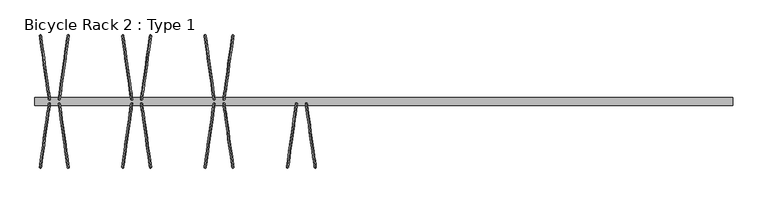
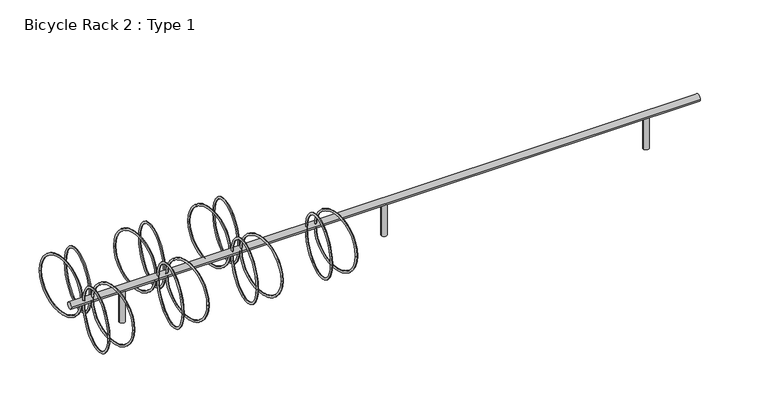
"""IFC4 building model written with IfcOpenShell, lengths in millimetres: proxy geometry, Bicycle Rack 2 : Type 1."""

from ifc_helpers import new_model, si_unit, point, frame, frame_2d, origin, origin_with_axes, origin_2d, place, context, project, spatial, circle_curve, ellipse_curve, trimmed, segment, composite_curve, outline, extrude, source, transform, mapped, element, save
from ifc_brep_helpers import revolved_surface, advanced_brep


def bicycle_rack_2_type_1_8d1b79aa(model_context):
    return source(origin(), model_context, "Body", "SolidModel", [
        extrude(outline(composite_curve([segment(trimmed(circle_curve(frame_2d((0.0, 304.8)), 30.1625), [point((30.1625, 304.8))], [point((-30.1625, 304.8))], False, "CARTESIAN"), True, "CONTINUOUS"), segment(trimmed(circle_curve(frame_2d((0.0, 304.8)), 30.1625), [point((-30.1625, 304.8))], [point((30.1625, 304.8))], False, "CARTESIAN"), True, "CONTINUOUS")], self_intersect=False)), frame((-2743.2, 0.0, 0.0), z_axis=(1.0, 0.0, 0.0), x_axis=(0.0, 1.0, 0.0)), (0.0, 0.0, 1.0), 5486.4),
        extrude(outline(composite_curve([segment(trimmed(circle_curve(frame_2d((2286.0, 0.0)), 25.4), [point((2260.6, 0.0))], [point((2311.4, 0.0))], False, "CARTESIAN"), True, "CONTINUOUS"), segment(trimmed(circle_curve(frame_2d((2286.0, 0.0)), 25.4), [point((2311.4, 0.0))], [point((2260.6, 0.0))], False, "CARTESIAN"), True, "CONTINUOUS")], self_intersect=False)), origin_with_axes(), (0.0, 0.0, 1.0), 304.8),
        extrude(outline(composite_curve([segment(trimmed(circle_curve(origin_2d(), 25.4), [point((-25.4, 0.0))], [point((25.4, 0.0))], False, "CARTESIAN"), True, "CONTINUOUS"), segment(trimmed(circle_curve(origin_2d(), 25.4), [point((25.4, 0.0))], [point((-25.4, 0.0))], False, "CARTESIAN"), True, "CONTINUOUS")], self_intersect=False)), origin_with_axes(), (0.0, 0.0, 1.0), 304.8),
        extrude(outline(composite_curve([segment(trimmed(circle_curve(frame_2d((2286.0, 0.0)), 25.4), [point((2260.6, 0.0))], [point((2311.4, 0.0))], False, "CARTESIAN"), True, "CONTINUOUS"), segment(trimmed(circle_curve(frame_2d((2286.0, 0.0)), 25.4), [point((2311.4, 0.0))], [point((2260.6, 0.0))], False, "CARTESIAN"), True, "CONTINUOUS")], self_intersect=False)), origin_with_axes(), (0.0, 0.0, 1.0), 304.8),
        extrude(outline(composite_curve([segment(trimmed(circle_curve(origin_2d(), 25.4), [point((-25.4, 0.0))], [point((25.4, 0.0))], False, "CARTESIAN"), True, "CONTINUOUS"), segment(trimmed(circle_curve(origin_2d(), 25.4), [point((25.4, 0.0))], [point((-25.4, 0.0))], False, "CARTESIAN"), True, "CONTINUOUS")], self_intersect=False)), origin_with_axes(), (0.0, 0.0, 1.0), 304.8),
        extrude(outline(composite_curve([segment(trimmed(circle_curve(frame_2d((-2286.0, 0.0)), 25.4), [point((-2311.4, 0.0))], [point((-2260.6, 0.0))], False, "CARTESIAN"), True, "CONTINUOUS"), segment(trimmed(circle_curve(frame_2d((-2286.0, 0.0)), 25.4), [point((-2260.6, 0.0))], [point((-2311.4, 0.0))], False, "CARTESIAN"), True, "CONTINUOUS")], self_intersect=False)), origin_with_axes(), (0.0, 0.0, 1.0), 304.8),
        advanced_brep(
        [(-2630.2111695, -21.9255981, 304.7993564), (-2698.7017319, -509.2612714, 304.7993564), (-2700.9111048, -524.981777, 304.7993564), (-2628.0017966, -6.2050925, 304.7993564)],
        [
            (0, 1, circle_curve(frame((-2664.4564507, -265.5934347, 304.7993564), z_axis=(0.990268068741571, -0.13917310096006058, 0.0), x_axis=(-0.13917310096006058, -0.990268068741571, 0.0)), 246.0625)),
            (1, 2, circle_curve(frame((-2699.8064183, -517.1215242, 304.7993564), z_axis=(0.0, 0.0, 1.0), x_axis=(0.13917310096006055, 0.990268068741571, 0.0)), 7.9375)),
            (2, 3, circle_curve(frame((-2664.4564507, -265.5934347, 304.7993564), z_axis=(-0.990268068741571, 0.13917310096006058, 0.0), x_axis=(-0.13917310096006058, -0.990268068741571, 0.0)), 261.9375)),
            (3, 0, circle_curve(frame((-2629.1064831, -14.0653453, 304.7993564), z_axis=(0.0, 0.0, 1.0), x_axis=(-0.1391731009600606, -0.990268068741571, 0.0)), 7.9375)),
            (2, 1, circle_curve(frame((-2699.8064183, -517.1215242, 304.7993564), z_axis=(0.0, 0.0, 1.0), x_axis=(0.13917310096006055, 0.990268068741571, 0.0)), 7.9375)),
            (0, 3, circle_curve(frame((-2629.1064831, -14.0653453, 304.7993564), z_axis=(0.0, 0.0, 1.0), x_axis=(-0.1391731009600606, -0.990268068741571, 0.0)), 7.9375)),
            (1, 0, circle_curve(frame((-2664.4564507, -265.5934347, 304.7993564), z_axis=(0.990268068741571, -0.13917310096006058, 0.0), x_axis=(0.13917310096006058, 0.990268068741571, 0.0)), 246.0625)),
            (3, 2, circle_curve(frame((-2664.4564507, -265.5934347, 304.7993564), z_axis=(-0.990268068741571, 0.13917310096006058, 0.0), x_axis=(0.13917310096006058, 0.990268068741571, 0.0)), 261.9375)),
        ],
        [
            revolved_surface(trimmed(ellipse_curve(frame((-2699.8064183, -517.1215242, 304.7993564), z_axis=(0.0, 0.0, -1.0), x_axis=(0.13917310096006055, 0.990268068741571, 0.0)), 7.9375, 7.9375), [point((-2700.9111048, -524.981777, 304.7993564))], [point((-2698.7017319, -509.2612714, 304.7993564))], True, "CARTESIAN"), (-2475.8103836, -292.1059105, 304.7993564), (-0.990268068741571, 0.13917310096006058, 0.0)),
            revolved_surface(trimmed(ellipse_curve(frame((-2699.8064183, -517.1215242, 304.7993564), z_axis=(0.0, 0.0, -1.0), x_axis=(0.13917310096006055, 0.990268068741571, 0.0)), 7.9375, 7.9375), [point((-2698.7017319, -509.2612714, 304.7993564))], [point((-2700.9111048, -524.981777, 304.7993564))], True, "CARTESIAN"), (-2475.8103836, -292.1059105, 304.7993564), (-0.990268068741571, 0.13917310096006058, 0.0)),
            revolved_surface(trimmed(ellipse_curve(frame((-2629.1064831, -14.0653453, 304.7993564), z_axis=(0.0, 0.0, 1.0), x_axis=(-0.13917310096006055, -0.990268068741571, 0.0)), 7.9375, 7.9375), [point((-2628.0017966, -6.2050925, 304.7993564))], [point((-2630.2111695, -21.9255981, 304.7993564))], True, "CARTESIAN"), (-2475.8103836, -292.1059105, 304.7993564), (-0.990268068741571, 0.13917310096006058, 0.0)),
            revolved_surface(trimmed(ellipse_curve(frame((-2629.1064831, -14.0653453, 304.7993564), z_axis=(0.0, 0.0, 1.0), x_axis=(-0.13917310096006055, -0.990268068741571, 0.0)), 7.9375, 7.9375), [point((-2630.2111695, -21.9255981, 304.7993564))], [point((-2628.0017966, -6.2050925, 304.7993564))], True, "CARTESIAN"), (-2475.8103836, -292.1059105, 304.7993564), (-0.990268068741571, 0.13917310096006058, 0.0)),
        ],
        [
            (0, [[1, 2, 3, 4]]),
            (1, [[-3, 5, -1, 6]]),
            (2, [[7, -4, 8, -2]]),
            (3, [[-8, -6, -7, -5]]),
        ],
    ),
        advanced_brep(
        [(-2551.3888305, -21.9255981, 304.7993564), (-2482.8982681, -509.2612714, 304.7993564), (-2480.6888952, -524.981777, 304.7993564), (-2553.5982034, -6.2050925, 304.7993564)],
        [
            (0, 1, circle_curve(frame((-2517.1435493, -265.5934347, 304.7993564), z_axis=(0.9902680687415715, 0.1391731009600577, 0.0), x_axis=(0.1391731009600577, -0.9902680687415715, 0.0)), 246.0625)),
            (1, 2, circle_curve(frame((-2481.7935817, -517.1215242, 304.7993564), z_axis=(0.0, 0.0, 1.0), x_axis=(-0.13917310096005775, 0.9902680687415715, 0.0)), 7.9375)),
            (2, 3, circle_curve(frame((-2517.1435493, -265.5934347, 304.7993564), z_axis=(-0.9902680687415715, -0.1391731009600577, 0.0), x_axis=(0.1391731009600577, -0.9902680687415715, 0.0)), 261.9375)),
            (3, 0, circle_curve(frame((-2552.4935169, -14.0653453, 304.7993564), z_axis=(0.0, 0.0, 1.0), x_axis=(0.13917310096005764, -0.9902680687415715, 0.0)), 7.9375)),
            (2, 1, circle_curve(frame((-2481.7935817, -517.1215242, 304.7993564), z_axis=(0.0, 0.0, 1.0), x_axis=(-0.13917310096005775, 0.9902680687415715, 0.0)), 7.9375)),
            (0, 3, circle_curve(frame((-2552.4935169, -14.0653453, 304.7993564), z_axis=(0.0, 0.0, 1.0), x_axis=(0.13917310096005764, -0.9902680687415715, 0.0)), 7.9375)),
            (1, 0, circle_curve(frame((-2517.1435493, -265.5934347, 304.7993564), z_axis=(0.9902680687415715, 0.1391731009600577, 0.0), x_axis=(-0.1391731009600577, 0.9902680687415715, 0.0)), 246.0625)),
            (3, 2, circle_curve(frame((-2517.1435493, -265.5934347, 304.7993564), z_axis=(-0.9902680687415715, -0.1391731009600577, 0.0), x_axis=(-0.1391731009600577, 0.9902680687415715, 0.0)), 261.9375)),
        ],
        [
            revolved_surface(trimmed(ellipse_curve(frame((-2481.7935817, -517.1215242, 304.7993564), z_axis=(0.0, 0.0, -1.0), x_axis=(-0.13917310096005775, 0.9902680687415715, 0.0)), 7.9375, 7.9375), [point((-2480.6888952, -524.981777, 304.7993564))], [point((-2482.8982681, -509.2612714, 304.7993564))], True, "CARTESIAN"), (-2705.7896164, -292.1059105, 304.7993564), (-0.9902680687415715, -0.1391731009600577, 0.0)),
            revolved_surface(trimmed(ellipse_curve(frame((-2481.7935817, -517.1215242, 304.7993564), z_axis=(0.0, 0.0, -1.0), x_axis=(-0.13917310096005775, 0.9902680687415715, 0.0)), 7.9375, 7.9375), [point((-2482.8982681, -509.2612714, 304.7993564))], [point((-2480.6888952, -524.981777, 304.7993564))], True, "CARTESIAN"), (-2705.7896164, -292.1059105, 304.7993564), (-0.9902680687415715, -0.1391731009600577, 0.0)),
            revolved_surface(trimmed(ellipse_curve(frame((-2552.4935169, -14.0653453, 304.7993564), z_axis=(0.0, 0.0, 1.0), x_axis=(0.1391731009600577, -0.9902680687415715, 0.0)), 7.9375, 7.9375), [point((-2553.5982034, -6.2050925, 304.7993564))], [point((-2551.3888305, -21.9255981, 304.7993564))], True, "CARTESIAN"), (-2705.7896164, -292.1059105, 304.7993564), (-0.9902680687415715, -0.1391731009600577, 0.0)),
            revolved_surface(trimmed(ellipse_curve(frame((-2552.4935169, -14.0653453, 304.7993564), z_axis=(0.0, 0.0, 1.0), x_axis=(0.1391731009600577, -0.9902680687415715, 0.0)), 7.9375, 7.9375), [point((-2551.3888305, -21.9255981, 304.7993564))], [point((-2553.5982034, -6.2050925, 304.7993564))], True, "CARTESIAN"), (-2705.7896164, -292.1059105, 304.7993564), (-0.9902680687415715, -0.1391731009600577, 0.0)),
        ],
        [
            (0, [[1, 2, 3, 4]]),
            (1, [[-3, 5, -1, 6]]),
            (2, [[7, -4, 8, -2]]),
            (3, [[-8, -6, -7, -5]]),
        ],
    ),
        advanced_brep(
        [(-2551.3888305, 21.9255981, 304.7993564), (-2482.8982681, 509.2612714, 304.7993564), (-2480.6888952, 524.981777, 304.7993564), (-2553.5982034, 6.2050925, 304.7993564)],
        [
            (0, 1, circle_curve(frame((-2517.1435493, 265.5934347, 304.7993564), z_axis=(-0.9902680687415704, 0.13917310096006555, 0.0), x_axis=(0.13917310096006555, 0.9902680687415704, 0.0)), 246.0625)),
            (1, 2, circle_curve(frame((-2481.7935817, 517.1215242, 304.7993564), z_axis=(0.0, 0.0, 1.0000000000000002), x_axis=(-0.13917310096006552, -0.9902680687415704, 0.0)), 7.9375)),
            (2, 3, circle_curve(frame((-2517.1435493, 265.5934347, 304.7993564), z_axis=(0.9902680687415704, -0.13917310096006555, 0.0), x_axis=(0.13917310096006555, 0.9902680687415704, 0.0)), 261.9375)),
            (3, 0, circle_curve(frame((-2552.4935169, 14.0653453, 304.7993564), z_axis=(0.0, 0.0, 1.0000000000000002), x_axis=(0.13917310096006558, 0.9902680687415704, 0.0)), 7.9375)),
            (2, 1, circle_curve(frame((-2481.7935817, 517.1215242, 304.7993564), z_axis=(0.0, 0.0, 1.0000000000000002), x_axis=(-0.13917310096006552, -0.9902680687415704, 0.0)), 7.9375)),
            (0, 3, circle_curve(frame((-2552.4935169, 14.0653453, 304.7993564), z_axis=(0.0, 0.0, 1.0000000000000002), x_axis=(0.13917310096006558, 0.9902680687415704, 0.0)), 7.9375)),
            (1, 0, circle_curve(frame((-2517.1435493, 265.5934347, 304.7993564), z_axis=(-0.9902680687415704, 0.13917310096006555, 0.0), x_axis=(-0.13917310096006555, -0.9902680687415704, 0.0)), 246.0625)),
            (3, 2, circle_curve(frame((-2517.1435493, 265.5934347, 304.7993564), z_axis=(0.9902680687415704, -0.13917310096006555, 0.0), x_axis=(-0.13917310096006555, -0.9902680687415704, 0.0)), 261.9375)),
        ],
        [
            revolved_surface(trimmed(ellipse_curve(frame((-2481.7935817, 517.1215242, 304.7993564), z_axis=(0.0, 0.0, -1.0000000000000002), x_axis=(-0.13917310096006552, -0.9902680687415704, 0.0)), 7.9375, 7.9375), [point((-2480.6888952, 524.981777, 304.7993564))], [point((-2482.8982681, 509.2612714, 304.7993564))], True, "CARTESIAN"), (-2705.7896164, 292.1059105, 304.7993564), (0.9902680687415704, -0.13917310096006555, 0.0)),
            revolved_surface(trimmed(ellipse_curve(frame((-2481.7935817, 517.1215242, 304.7993564), z_axis=(0.0, 0.0, -1.0000000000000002), x_axis=(-0.13917310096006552, -0.9902680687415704, 0.0)), 7.9375, 7.9375), [point((-2482.8982681, 509.2612714, 304.7993564))], [point((-2480.6888952, 524.981777, 304.7993564))], True, "CARTESIAN"), (-2705.7896164, 292.1059105, 304.7993564), (0.9902680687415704, -0.13917310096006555, 0.0)),
            revolved_surface(trimmed(ellipse_curve(frame((-2552.4935169, 14.0653453, 304.7993564), z_axis=(0.0, 0.0, 1.0000000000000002), x_axis=(0.13917310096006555, 0.9902680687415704, 0.0)), 7.9375, 7.9375), [point((-2553.5982034, 6.2050925, 304.7993564))], [point((-2551.3888305, 21.9255981, 304.7993564))], True, "CARTESIAN"), (-2705.7896164, 292.1059105, 304.7993564), (0.9902680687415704, -0.13917310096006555, 0.0)),
            revolved_surface(trimmed(ellipse_curve(frame((-2552.4935169, 14.0653453, 304.7993564), z_axis=(0.0, 0.0, 1.0000000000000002), x_axis=(0.13917310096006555, 0.9902680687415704, 0.0)), 7.9375, 7.9375), [point((-2551.3888305, 21.9255981, 304.7993564))], [point((-2553.5982034, 6.2050925, 304.7993564))], True, "CARTESIAN"), (-2705.7896164, 292.1059105, 304.7993564), (0.9902680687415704, -0.13917310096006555, 0.0)),
        ],
        [
            (0, [[1, 2, 3, 4]]),
            (1, [[-3, 5, -1, 6]]),
            (2, [[7, -4, 8, -2]]),
            (3, [[-8, -6, -7, -5]]),
        ],
    ),
        advanced_brep(
        [(-2630.2111695, 21.9255981, 304.7993564), (-2698.7017319, 509.2612714, 304.7993564), (-2700.9111048, 524.981777, 304.7993564), (-2628.0017966, 6.2050925, 304.7993564)],
        [
            (0, 1, circle_curve(frame((-2664.4564507, 265.5934347, 304.7993564), z_axis=(-0.9902680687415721, -0.13917310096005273, 0.0), x_axis=(-0.13917310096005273, 0.9902680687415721, 0.0)), 246.0625)),
            (1, 2, circle_curve(frame((-2699.8064183, 517.1215242, 304.7993564), z_axis=(0.0, 0.0, 1.0), x_axis=(0.13917310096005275, -0.9902680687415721, 0.0)), 7.9375)),
            (2, 3, circle_curve(frame((-2664.4564507, 265.5934347, 304.7993564), z_axis=(0.9902680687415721, 0.13917310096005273, 0.0), x_axis=(-0.13917310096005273, 0.9902680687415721, 0.0)), 261.9375)),
            (3, 0, circle_curve(frame((-2629.1064831, 14.0653453, 304.7993564), z_axis=(0.0, 0.0, 1.0), x_axis=(-0.1391731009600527, 0.9902680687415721, 0.0)), 7.9375)),
            (2, 1, circle_curve(frame((-2699.8064183, 517.1215242, 304.7993564), z_axis=(0.0, 0.0, 1.0), x_axis=(0.13917310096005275, -0.9902680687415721, 0.0)), 7.9375)),
            (0, 3, circle_curve(frame((-2629.1064831, 14.0653453, 304.7993564), z_axis=(0.0, 0.0, 1.0), x_axis=(-0.1391731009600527, 0.9902680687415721, 0.0)), 7.9375)),
            (1, 0, circle_curve(frame((-2664.4564507, 265.5934347, 304.7993564), z_axis=(-0.9902680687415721, -0.13917310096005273, 0.0), x_axis=(0.13917310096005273, -0.9902680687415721, 0.0)), 246.0625)),
            (3, 2, circle_curve(frame((-2664.4564507, 265.5934347, 304.7993564), z_axis=(0.9902680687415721, 0.13917310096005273, 0.0), x_axis=(0.13917310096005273, -0.9902680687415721, 0.0)), 261.9375)),
        ],
        [
            revolved_surface(trimmed(ellipse_curve(frame((-2699.8064183, 517.1215242, 304.7993564), z_axis=(0.0, 0.0, -1.0), x_axis=(0.13917310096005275, -0.9902680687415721, 0.0)), 7.9375, 7.9375), [point((-2700.9111048, 524.981777, 304.7993564))], [point((-2698.7017319, 509.2612714, 304.7993564))], True, "CARTESIAN"), (-2475.8103836, 292.1059105, 304.7993564), (0.9902680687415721, 0.13917310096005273, 0.0)),
            revolved_surface(trimmed(ellipse_curve(frame((-2699.8064183, 517.1215242, 304.7993564), z_axis=(0.0, 0.0, -1.0), x_axis=(0.13917310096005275, -0.9902680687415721, 0.0)), 7.9375, 7.9375), [point((-2698.7017319, 509.2612714, 304.7993564))], [point((-2700.9111048, 524.981777, 304.7993564))], True, "CARTESIAN"), (-2475.8103836, 292.1059105, 304.7993564), (0.9902680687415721, 0.13917310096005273, 0.0)),
            revolved_surface(trimmed(ellipse_curve(frame((-2629.1064831, 14.0653453, 304.7993564), z_axis=(0.0, 0.0, 1.0), x_axis=(-0.1391731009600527, 0.9902680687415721, 0.0)), 7.9375, 7.9375), [point((-2628.0017966, 6.2050925, 304.7993564))], [point((-2630.2111695, 21.9255981, 304.7993564))], True, "CARTESIAN"), (-2475.8103836, 292.1059105, 304.7993564), (0.9902680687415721, 0.13917310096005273, 0.0)),
            revolved_surface(trimmed(ellipse_curve(frame((-2629.1064831, 14.0653453, 304.7993564), z_axis=(0.0, 0.0, 1.0), x_axis=(-0.1391731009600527, 0.9902680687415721, 0.0)), 7.9375, 7.9375), [point((-2630.2111695, 21.9255981, 304.7993564))], [point((-2628.0017966, 6.2050925, 304.7993564))], True, "CARTESIAN"), (-2475.8103836, 292.1059105, 304.7993564), (0.9902680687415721, 0.13917310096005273, 0.0)),
        ],
        [
            (0, [[1, 2, 3, 4]]),
            (1, [[-3, 5, -1, 6]]),
            (2, [[7, -4, 8, -2]]),
            (3, [[-8, -6, -7, -5]]),
        ],
    ),
        advanced_brep(
        [(-1982.5111695, -21.9255981, 304.7993564), (-2051.0017319, -509.2612714, 304.7993564), (-2053.2111048, -524.981777, 304.7993564), (-1980.3017966, -6.2050925, 304.7993564)],
        [
            (0, 1, circle_curve(frame((-2016.7564507, -265.5934347, 304.7993564), z_axis=(0.990268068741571, -0.13917310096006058, 0.0), x_axis=(-0.13917310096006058, -0.990268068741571, 0.0)), 246.0625)),
            (1, 2, circle_curve(frame((-2052.1064183, -517.1215242, 304.7993564), z_axis=(0.0, 0.0, 1.0), x_axis=(0.13917310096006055, 0.990268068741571, 0.0)), 7.9375)),
            (2, 3, circle_curve(frame((-2016.7564507, -265.5934347, 304.7993564), z_axis=(-0.990268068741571, 0.13917310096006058, 0.0), x_axis=(-0.13917310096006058, -0.990268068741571, 0.0)), 261.9375)),
            (3, 0, circle_curve(frame((-1981.4064831, -14.0653453, 304.7993564), z_axis=(0.0, 0.0, 1.0), x_axis=(-0.1391731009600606, -0.990268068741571, 0.0)), 7.9375)),
            (2, 1, circle_curve(frame((-2052.1064183, -517.1215242, 304.7993564), z_axis=(0.0, 0.0, 1.0), x_axis=(0.13917310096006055, 0.990268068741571, 0.0)), 7.9375)),
            (0, 3, circle_curve(frame((-1981.4064831, -14.0653453, 304.7993564), z_axis=(0.0, 0.0, 1.0), x_axis=(-0.1391731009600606, -0.990268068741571, 0.0)), 7.9375)),
            (1, 0, circle_curve(frame((-2016.7564507, -265.5934347, 304.7993564), z_axis=(0.990268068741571, -0.13917310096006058, 0.0), x_axis=(0.13917310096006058, 0.990268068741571, 0.0)), 246.0625)),
            (3, 2, circle_curve(frame((-2016.7564507, -265.5934347, 304.7993564), z_axis=(-0.990268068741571, 0.13917310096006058, 0.0), x_axis=(0.13917310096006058, 0.990268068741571, 0.0)), 261.9375)),
        ],
        [
            revolved_surface(trimmed(ellipse_curve(frame((-2052.1064183, -517.1215242, 304.7993564), z_axis=(0.0, 0.0, -1.0), x_axis=(0.13917310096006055, 0.990268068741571, 0.0)), 7.9375, 7.9375), [point((-2053.2111048, -524.981777, 304.7993564))], [point((-2051.0017319, -509.2612714, 304.7993564))], True, "CARTESIAN"), (-1828.1103836, -292.1059105, 304.7993564), (-0.990268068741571, 0.13917310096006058, 0.0)),
            revolved_surface(trimmed(ellipse_curve(frame((-2052.1064183, -517.1215242, 304.7993564), z_axis=(0.0, 0.0, -1.0), x_axis=(0.13917310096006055, 0.990268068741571, 0.0)), 7.9375, 7.9375), [point((-2051.0017319, -509.2612714, 304.7993564))], [point((-2053.2111048, -524.981777, 304.7993564))], True, "CARTESIAN"), (-1828.1103836, -292.1059105, 304.7993564), (-0.990268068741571, 0.13917310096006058, 0.0)),
            revolved_surface(trimmed(ellipse_curve(frame((-1981.4064831, -14.0653453, 304.7993564), z_axis=(0.0, 0.0, 1.0), x_axis=(-0.13917310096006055, -0.990268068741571, 0.0)), 7.9375, 7.9375), [point((-1980.3017966, -6.2050925, 304.7993564))], [point((-1982.5111695, -21.9255981, 304.7993564))], True, "CARTESIAN"), (-1828.1103836, -292.1059105, 304.7993564), (-0.990268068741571, 0.13917310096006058, 0.0)),
            revolved_surface(trimmed(ellipse_curve(frame((-1981.4064831, -14.0653453, 304.7993564), z_axis=(0.0, 0.0, 1.0), x_axis=(-0.13917310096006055, -0.990268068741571, 0.0)), 7.9375, 7.9375), [point((-1982.5111695, -21.9255981, 304.7993564))], [point((-1980.3017966, -6.2050925, 304.7993564))], True, "CARTESIAN"), (-1828.1103836, -292.1059105, 304.7993564), (-0.990268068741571, 0.13917310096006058, 0.0)),
        ],
        [
            (0, [[1, 2, 3, 4]]),
            (1, [[-3, 5, -1, 6]]),
            (2, [[7, -4, 8, -2]]),
            (3, [[-8, -6, -7, -5]]),
        ],
    ),
        advanced_brep(
        [(-1903.6888305, -21.9255981, 304.7993564), (-1835.1982681, -509.2612714, 304.7993564), (-1832.9888952, -524.981777, 304.7993564), (-1905.8982034, -6.2050925, 304.7993564)],
        [
            (0, 1, circle_curve(frame((-1869.4435493, -265.5934347, 304.7993564), z_axis=(0.9902680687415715, 0.1391731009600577, 0.0), x_axis=(0.1391731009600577, -0.9902680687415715, 0.0)), 246.0625)),
            (1, 2, circle_curve(frame((-1834.0935817, -517.1215242, 304.7993564), z_axis=(0.0, 0.0, 1.0), x_axis=(-0.13917310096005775, 0.9902680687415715, 0.0)), 7.9375)),
            (2, 3, circle_curve(frame((-1869.4435493, -265.5934347, 304.7993564), z_axis=(-0.9902680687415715, -0.1391731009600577, 0.0), x_axis=(0.1391731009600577, -0.9902680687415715, 0.0)), 261.9375)),
            (3, 0, circle_curve(frame((-1904.7935169, -14.0653453, 304.7993564), z_axis=(0.0, 0.0, 1.0), x_axis=(0.13917310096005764, -0.9902680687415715, 0.0)), 7.9375)),
            (2, 1, circle_curve(frame((-1834.0935817, -517.1215242, 304.7993564), z_axis=(0.0, 0.0, 1.0), x_axis=(-0.13917310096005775, 0.9902680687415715, 0.0)), 7.9375)),
            (0, 3, circle_curve(frame((-1904.7935169, -14.0653453, 304.7993564), z_axis=(0.0, 0.0, 1.0), x_axis=(0.13917310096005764, -0.9902680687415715, 0.0)), 7.9375)),
            (1, 0, circle_curve(frame((-1869.4435493, -265.5934347, 304.7993564), z_axis=(0.9902680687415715, 0.1391731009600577, 0.0), x_axis=(-0.1391731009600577, 0.9902680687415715, 0.0)), 246.0625)),
            (3, 2, circle_curve(frame((-1869.4435493, -265.5934347, 304.7993564), z_axis=(-0.9902680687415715, -0.1391731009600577, 0.0), x_axis=(-0.1391731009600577, 0.9902680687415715, 0.0)), 261.9375)),
        ],
        [
            revolved_surface(trimmed(ellipse_curve(frame((-1834.0935817, -517.1215242, 304.7993564), z_axis=(0.0, 0.0, -1.0), x_axis=(-0.13917310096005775, 0.9902680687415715, 0.0)), 7.9375, 7.9375), [point((-1832.9888952, -524.981777, 304.7993564))], [point((-1835.1982681, -509.2612714, 304.7993564))], True, "CARTESIAN"), (-2058.0896164, -292.1059105, 304.7993564), (-0.9902680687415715, -0.1391731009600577, 0.0)),
            revolved_surface(trimmed(ellipse_curve(frame((-1834.0935817, -517.1215242, 304.7993564), z_axis=(0.0, 0.0, -1.0), x_axis=(-0.13917310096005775, 0.9902680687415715, 0.0)), 7.9375, 7.9375), [point((-1835.1982681, -509.2612714, 304.7993564))], [point((-1832.9888952, -524.981777, 304.7993564))], True, "CARTESIAN"), (-2058.0896164, -292.1059105, 304.7993564), (-0.9902680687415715, -0.1391731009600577, 0.0)),
            revolved_surface(trimmed(ellipse_curve(frame((-1904.7935169, -14.0653453, 304.7993564), z_axis=(0.0, 0.0, 1.0), x_axis=(0.1391731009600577, -0.9902680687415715, 0.0)), 7.9375, 7.9375), [point((-1905.8982034, -6.2050925, 304.7993564))], [point((-1903.6888305, -21.9255981, 304.7993564))], True, "CARTESIAN"), (-2058.0896164, -292.1059105, 304.7993564), (-0.9902680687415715, -0.1391731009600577, 0.0)),
            revolved_surface(trimmed(ellipse_curve(frame((-1904.7935169, -14.0653453, 304.7993564), z_axis=(0.0, 0.0, 1.0), x_axis=(0.1391731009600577, -0.9902680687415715, 0.0)), 7.9375, 7.9375), [point((-1903.6888305, -21.9255981, 304.7993564))], [point((-1905.8982034, -6.2050925, 304.7993564))], True, "CARTESIAN"), (-2058.0896164, -292.1059105, 304.7993564), (-0.9902680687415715, -0.1391731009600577, 0.0)),
        ],
        [
            (0, [[1, 2, 3, 4]]),
            (1, [[-3, 5, -1, 6]]),
            (2, [[7, -4, 8, -2]]),
            (3, [[-8, -6, -7, -5]]),
        ],
    ),
        advanced_brep(
        [(-1903.6888305, 21.9255981, 304.7993564), (-1835.1982681, 509.2612714, 304.7993564), (-1832.9888952, 524.981777, 304.7993564), (-1905.8982034, 6.2050925, 304.7993564)],
        [
            (0, 1, circle_curve(frame((-1869.4435493, 265.5934347, 304.7993564), z_axis=(-0.9902680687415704, 0.13917310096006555, 0.0), x_axis=(0.13917310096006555, 0.9902680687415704, 0.0)), 246.0625)),
            (1, 2, circle_curve(frame((-1834.0935817, 517.1215242, 304.7993564), z_axis=(0.0, 0.0, 1.0000000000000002), x_axis=(-0.13917310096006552, -0.9902680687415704, 0.0)), 7.9375)),
            (2, 3, circle_curve(frame((-1869.4435493, 265.5934347, 304.7993564), z_axis=(0.9902680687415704, -0.13917310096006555, 0.0), x_axis=(0.13917310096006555, 0.9902680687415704, 0.0)), 261.9375)),
            (3, 0, circle_curve(frame((-1904.7935169, 14.0653453, 304.7993564), z_axis=(0.0, 0.0, 1.0000000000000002), x_axis=(0.13917310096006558, 0.9902680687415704, 0.0)), 7.9375)),
            (2, 1, circle_curve(frame((-1834.0935817, 517.1215242, 304.7993564), z_axis=(0.0, 0.0, 1.0000000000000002), x_axis=(-0.13917310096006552, -0.9902680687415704, 0.0)), 7.9375)),
            (0, 3, circle_curve(frame((-1904.7935169, 14.0653453, 304.7993564), z_axis=(0.0, 0.0, 1.0000000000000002), x_axis=(0.13917310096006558, 0.9902680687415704, 0.0)), 7.9375)),
            (1, 0, circle_curve(frame((-1869.4435493, 265.5934347, 304.7993564), z_axis=(-0.9902680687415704, 0.13917310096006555, 0.0), x_axis=(-0.13917310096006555, -0.9902680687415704, 0.0)), 246.0625)),
            (3, 2, circle_curve(frame((-1869.4435493, 265.5934347, 304.7993564), z_axis=(0.9902680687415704, -0.13917310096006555, 0.0), x_axis=(-0.13917310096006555, -0.9902680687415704, 0.0)), 261.9375)),
        ],
        [
            revolved_surface(trimmed(ellipse_curve(frame((-1834.0935817, 517.1215242, 304.7993564), z_axis=(0.0, 0.0, -1.0000000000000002), x_axis=(-0.13917310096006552, -0.9902680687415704, 0.0)), 7.9375, 7.9375), [point((-1832.9888952, 524.981777, 304.7993564))], [point((-1835.1982681, 509.2612714, 304.7993564))], True, "CARTESIAN"), (-2058.0896164, 292.1059105, 304.7993564), (0.9902680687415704, -0.13917310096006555, 0.0)),
            revolved_surface(trimmed(ellipse_curve(frame((-1834.0935817, 517.1215242, 304.7993564), z_axis=(0.0, 0.0, -1.0000000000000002), x_axis=(-0.13917310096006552, -0.9902680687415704, 0.0)), 7.9375, 7.9375), [point((-1835.1982681, 509.2612714, 304.7993564))], [point((-1832.9888952, 524.981777, 304.7993564))], True, "CARTESIAN"), (-2058.0896164, 292.1059105, 304.7993564), (0.9902680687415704, -0.13917310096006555, 0.0)),
            revolved_surface(trimmed(ellipse_curve(frame((-1904.7935169, 14.0653453, 304.7993564), z_axis=(0.0, 0.0, 1.0000000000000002), x_axis=(0.13917310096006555, 0.9902680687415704, 0.0)), 7.9375, 7.9375), [point((-1905.8982034, 6.2050925, 304.7993564))], [point((-1903.6888305, 21.9255981, 304.7993564))], True, "CARTESIAN"), (-2058.0896164, 292.1059105, 304.7993564), (0.9902680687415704, -0.13917310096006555, 0.0)),
            revolved_surface(trimmed(ellipse_curve(frame((-1904.7935169, 14.0653453, 304.7993564), z_axis=(0.0, 0.0, 1.0000000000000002), x_axis=(0.13917310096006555, 0.9902680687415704, 0.0)), 7.9375, 7.9375), [point((-1903.6888305, 21.9255981, 304.7993564))], [point((-1905.8982034, 6.2050925, 304.7993564))], True, "CARTESIAN"), (-2058.0896164, 292.1059105, 304.7993564), (0.9902680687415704, -0.13917310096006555, 0.0)),
        ],
        [
            (0, [[1, 2, 3, 4]]),
            (1, [[-3, 5, -1, 6]]),
            (2, [[7, -4, 8, -2]]),
            (3, [[-8, -6, -7, -5]]),
        ],
    ),
        advanced_brep(
        [(-1982.5111695, 21.9255981, 304.7993564), (-2051.0017319, 509.2612714, 304.7993564), (-2053.2111048, 524.981777, 304.7993564), (-1980.3017966, 6.2050925, 304.7993564)],
        [
            (0, 1, circle_curve(frame((-2016.7564507, 265.5934347, 304.7993564), z_axis=(-0.9902680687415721, -0.13917310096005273, 0.0), x_axis=(-0.13917310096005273, 0.9902680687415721, 0.0)), 246.0625)),
            (1, 2, circle_curve(frame((-2052.1064183, 517.1215242, 304.7993564), z_axis=(0.0, 0.0, 1.0), x_axis=(0.13917310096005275, -0.9902680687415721, 0.0)), 7.9375)),
            (2, 3, circle_curve(frame((-2016.7564507, 265.5934347, 304.7993564), z_axis=(0.9902680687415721, 0.13917310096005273, 0.0), x_axis=(-0.13917310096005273, 0.9902680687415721, 0.0)), 261.9375)),
            (3, 0, circle_curve(frame((-1981.4064831, 14.0653453, 304.7993564), z_axis=(0.0, 0.0, 1.0), x_axis=(-0.1391731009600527, 0.9902680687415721, 0.0)), 7.9375)),
            (2, 1, circle_curve(frame((-2052.1064183, 517.1215242, 304.7993564), z_axis=(0.0, 0.0, 1.0), x_axis=(0.13917310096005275, -0.9902680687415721, 0.0)), 7.9375)),
            (0, 3, circle_curve(frame((-1981.4064831, 14.0653453, 304.7993564), z_axis=(0.0, 0.0, 1.0), x_axis=(-0.1391731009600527, 0.9902680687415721, 0.0)), 7.9375)),
            (1, 0, circle_curve(frame((-2016.7564507, 265.5934347, 304.7993564), z_axis=(-0.9902680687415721, -0.13917310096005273, 0.0), x_axis=(0.13917310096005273, -0.9902680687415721, 0.0)), 246.0625)),
            (3, 2, circle_curve(frame((-2016.7564507, 265.5934347, 304.7993564), z_axis=(0.9902680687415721, 0.13917310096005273, 0.0), x_axis=(0.13917310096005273, -0.9902680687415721, 0.0)), 261.9375)),
        ],
        [
            revolved_surface(trimmed(ellipse_curve(frame((-2052.1064183, 517.1215242, 304.7993564), z_axis=(0.0, 0.0, -1.0), x_axis=(0.13917310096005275, -0.9902680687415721, 0.0)), 7.9375, 7.9375), [point((-2053.2111048, 524.981777, 304.7993564))], [point((-2051.0017319, 509.2612714, 304.7993564))], True, "CARTESIAN"), (-1828.1103836, 292.1059105, 304.7993564), (0.9902680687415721, 0.13917310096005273, 0.0)),
            revolved_surface(trimmed(ellipse_curve(frame((-2052.1064183, 517.1215242, 304.7993564), z_axis=(0.0, 0.0, -1.0), x_axis=(0.13917310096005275, -0.9902680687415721, 0.0)), 7.9375, 7.9375), [point((-2051.0017319, 509.2612714, 304.7993564))], [point((-2053.2111048, 524.981777, 304.7993564))], True, "CARTESIAN"), (-1828.1103836, 292.1059105, 304.7993564), (0.9902680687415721, 0.13917310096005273, 0.0)),
            revolved_surface(trimmed(ellipse_curve(frame((-1981.4064831, 14.0653453, 304.7993564), z_axis=(0.0, 0.0, 1.0), x_axis=(-0.1391731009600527, 0.9902680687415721, 0.0)), 7.9375, 7.9375), [point((-1980.3017966, 6.2050925, 304.7993564))], [point((-1982.5111695, 21.9255981, 304.7993564))], True, "CARTESIAN"), (-1828.1103836, 292.1059105, 304.7993564), (0.9902680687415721, 0.13917310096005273, 0.0)),
            revolved_surface(trimmed(ellipse_curve(frame((-1981.4064831, 14.0653453, 304.7993564), z_axis=(0.0, 0.0, 1.0), x_axis=(-0.1391731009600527, 0.9902680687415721, 0.0)), 7.9375, 7.9375), [point((-1982.5111695, 21.9255981, 304.7993564))], [point((-1980.3017966, 6.2050925, 304.7993564))], True, "CARTESIAN"), (-1828.1103836, 292.1059105, 304.7993564), (0.9902680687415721, 0.13917310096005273, 0.0)),
        ],
        [
            (0, [[1, 2, 3, 4]]),
            (1, [[-3, 5, -1, 6]]),
            (2, [[7, -4, 8, -2]]),
            (3, [[-8, -6, -7, -5]]),
        ],
    ),
        advanced_brep(
        [(-1334.8111695, -21.9255981, 304.7993564), (-1403.3017319, -509.2612714, 304.7993564), (-1405.5111048, -524.981777, 304.7993564), (-1332.6017966, -6.2050925, 304.7993564)],
        [
            (0, 1, circle_curve(frame((-1369.0564507, -265.5934347, 304.7993564), z_axis=(0.990268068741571, -0.13917310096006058, 0.0), x_axis=(-0.13917310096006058, -0.990268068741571, 0.0)), 246.0625)),
            (1, 2, circle_curve(frame((-1404.4064183, -517.1215242, 304.7993564), z_axis=(0.0, 0.0, 1.0), x_axis=(0.13917310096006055, 0.990268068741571, 0.0)), 7.9375)),
            (2, 3, circle_curve(frame((-1369.0564507, -265.5934347, 304.7993564), z_axis=(-0.990268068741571, 0.13917310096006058, 0.0), x_axis=(-0.13917310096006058, -0.990268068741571, 0.0)), 261.9375)),
            (3, 0, circle_curve(frame((-1333.7064831, -14.0653453, 304.7993564), z_axis=(0.0, 0.0, 1.0), x_axis=(-0.1391731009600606, -0.990268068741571, 0.0)), 7.9375)),
            (2, 1, circle_curve(frame((-1404.4064183, -517.1215242, 304.7993564), z_axis=(0.0, 0.0, 1.0), x_axis=(0.13917310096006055, 0.990268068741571, 0.0)), 7.9375)),
            (0, 3, circle_curve(frame((-1333.7064831, -14.0653453, 304.7993564), z_axis=(0.0, 0.0, 1.0), x_axis=(-0.1391731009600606, -0.990268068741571, 0.0)), 7.9375)),
            (1, 0, circle_curve(frame((-1369.0564507, -265.5934347, 304.7993564), z_axis=(0.990268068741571, -0.13917310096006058, 0.0), x_axis=(0.13917310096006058, 0.990268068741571, 0.0)), 246.0625)),
            (3, 2, circle_curve(frame((-1369.0564507, -265.5934347, 304.7993564), z_axis=(-0.990268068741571, 0.13917310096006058, 0.0), x_axis=(0.13917310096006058, 0.990268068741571, 0.0)), 261.9375)),
        ],
        [
            revolved_surface(trimmed(ellipse_curve(frame((-1404.4064183, -517.1215242, 304.7993564), z_axis=(0.0, 0.0, -1.0), x_axis=(0.13917310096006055, 0.990268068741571, 0.0)), 7.9375, 7.9375), [point((-1405.5111048, -524.981777, 304.7993564))], [point((-1403.3017319, -509.2612714, 304.7993564))], True, "CARTESIAN"), (-1180.4103836, -292.1059105, 304.7993564), (-0.990268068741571, 0.13917310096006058, 0.0)),
            revolved_surface(trimmed(ellipse_curve(frame((-1404.4064183, -517.1215242, 304.7993564), z_axis=(0.0, 0.0, -1.0), x_axis=(0.13917310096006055, 0.990268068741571, 0.0)), 7.9375, 7.9375), [point((-1403.3017319, -509.2612714, 304.7993564))], [point((-1405.5111048, -524.981777, 304.7993564))], True, "CARTESIAN"), (-1180.4103836, -292.1059105, 304.7993564), (-0.990268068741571, 0.13917310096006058, 0.0)),
            revolved_surface(trimmed(ellipse_curve(frame((-1333.7064831, -14.0653453, 304.7993564), z_axis=(0.0, 0.0, 1.0), x_axis=(-0.13917310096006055, -0.990268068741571, 0.0)), 7.9375, 7.9375), [point((-1332.6017966, -6.2050925, 304.7993564))], [point((-1334.8111695, -21.9255981, 304.7993564))], True, "CARTESIAN"), (-1180.4103836, -292.1059105, 304.7993564), (-0.990268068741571, 0.13917310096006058, 0.0)),
            revolved_surface(trimmed(ellipse_curve(frame((-1333.7064831, -14.0653453, 304.7993564), z_axis=(0.0, 0.0, 1.0), x_axis=(-0.13917310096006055, -0.990268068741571, 0.0)), 7.9375, 7.9375), [point((-1334.8111695, -21.9255981, 304.7993564))], [point((-1332.6017966, -6.2050925, 304.7993564))], True, "CARTESIAN"), (-1180.4103836, -292.1059105, 304.7993564), (-0.990268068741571, 0.13917310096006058, 0.0)),
        ],
        [
            (0, [[1, 2, 3, 4]]),
            (1, [[-3, 5, -1, 6]]),
            (2, [[7, -4, 8, -2]]),
            (3, [[-8, -6, -7, -5]]),
        ],
    ),
        advanced_brep(
        [(-1255.9888305, -21.9255981, 304.7993564), (-1187.4982681, -509.2612714, 304.7993564), (-1185.2888952, -524.981777, 304.7993564), (-1258.1982034, -6.2050925, 304.7993564)],
        [
            (0, 1, circle_curve(frame((-1221.7435493, -265.5934347, 304.7993564), z_axis=(0.9902680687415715, 0.1391731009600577, 0.0), x_axis=(0.1391731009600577, -0.9902680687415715, 0.0)), 246.0625)),
            (1, 2, circle_curve(frame((-1186.3935817, -517.1215242, 304.7993564), z_axis=(0.0, 0.0, 1.0), x_axis=(-0.13917310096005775, 0.9902680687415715, 0.0)), 7.9375)),
            (2, 3, circle_curve(frame((-1221.7435493, -265.5934347, 304.7993564), z_axis=(-0.9902680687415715, -0.1391731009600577, 0.0), x_axis=(0.1391731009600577, -0.9902680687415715, 0.0)), 261.9375)),
            (3, 0, circle_curve(frame((-1257.0935169, -14.0653453, 304.7993564), z_axis=(0.0, 0.0, 1.0), x_axis=(0.13917310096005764, -0.9902680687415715, 0.0)), 7.9375)),
            (2, 1, circle_curve(frame((-1186.3935817, -517.1215242, 304.7993564), z_axis=(0.0, 0.0, 1.0), x_axis=(-0.13917310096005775, 0.9902680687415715, 0.0)), 7.9375)),
            (0, 3, circle_curve(frame((-1257.0935169, -14.0653453, 304.7993564), z_axis=(0.0, 0.0, 1.0), x_axis=(0.13917310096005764, -0.9902680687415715, 0.0)), 7.9375)),
            (1, 0, circle_curve(frame((-1221.7435493, -265.5934347, 304.7993564), z_axis=(0.9902680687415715, 0.1391731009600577, 0.0), x_axis=(-0.1391731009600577, 0.9902680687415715, 0.0)), 246.0625)),
            (3, 2, circle_curve(frame((-1221.7435493, -265.5934347, 304.7993564), z_axis=(-0.9902680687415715, -0.1391731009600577, 0.0), x_axis=(-0.1391731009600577, 0.9902680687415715, 0.0)), 261.9375)),
        ],
        [
            revolved_surface(trimmed(ellipse_curve(frame((-1186.3935817, -517.1215242, 304.7993564), z_axis=(0.0, 0.0, -1.0), x_axis=(-0.13917310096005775, 0.9902680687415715, 0.0)), 7.9375, 7.9375), [point((-1185.2888952, -524.981777, 304.7993564))], [point((-1187.4982681, -509.2612714, 304.7993564))], True, "CARTESIAN"), (-1410.3896164, -292.1059105, 304.7993564), (-0.9902680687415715, -0.1391731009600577, 0.0)),
            revolved_surface(trimmed(ellipse_curve(frame((-1186.3935817, -517.1215242, 304.7993564), z_axis=(0.0, 0.0, -1.0), x_axis=(-0.13917310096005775, 0.9902680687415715, 0.0)), 7.9375, 7.9375), [point((-1187.4982681, -509.2612714, 304.7993564))], [point((-1185.2888952, -524.981777, 304.7993564))], True, "CARTESIAN"), (-1410.3896164, -292.1059105, 304.7993564), (-0.9902680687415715, -0.1391731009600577, 0.0)),
            revolved_surface(trimmed(ellipse_curve(frame((-1257.0935169, -14.0653453, 304.7993564), z_axis=(0.0, 0.0, 1.0), x_axis=(0.1391731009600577, -0.9902680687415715, 0.0)), 7.9375, 7.9375), [point((-1258.1982034, -6.2050925, 304.7993564))], [point((-1255.9888305, -21.9255981, 304.7993564))], True, "CARTESIAN"), (-1410.3896164, -292.1059105, 304.7993564), (-0.9902680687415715, -0.1391731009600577, 0.0)),
            revolved_surface(trimmed(ellipse_curve(frame((-1257.0935169, -14.0653453, 304.7993564), z_axis=(0.0, 0.0, 1.0), x_axis=(0.1391731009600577, -0.9902680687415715, 0.0)), 7.9375, 7.9375), [point((-1255.9888305, -21.9255981, 304.7993564))], [point((-1258.1982034, -6.2050925, 304.7993564))], True, "CARTESIAN"), (-1410.3896164, -292.1059105, 304.7993564), (-0.9902680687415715, -0.1391731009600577, 0.0)),
        ],
        [
            (0, [[1, 2, 3, 4]]),
            (1, [[-3, 5, -1, 6]]),
            (2, [[7, -4, 8, -2]]),
            (3, [[-8, -6, -7, -5]]),
        ],
    ),
        advanced_brep(
        [(-1255.9888305, 21.9255981, 304.7993564), (-1187.4982681, 509.2612714, 304.7993564), (-1185.2888952, 524.981777, 304.7993564), (-1258.1982034, 6.2050925, 304.7993564)],
        [
            (0, 1, circle_curve(frame((-1221.7435493, 265.5934347, 304.7993564), z_axis=(-0.9902680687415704, 0.13917310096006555, 0.0), x_axis=(0.13917310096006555, 0.9902680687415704, 0.0)), 246.0625)),
            (1, 2, circle_curve(frame((-1186.3935817, 517.1215242, 304.7993564), z_axis=(0.0, 0.0, 1.0000000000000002), x_axis=(-0.13917310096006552, -0.9902680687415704, 0.0)), 7.9375)),
            (2, 3, circle_curve(frame((-1221.7435493, 265.5934347, 304.7993564), z_axis=(0.9902680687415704, -0.13917310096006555, 0.0), x_axis=(0.13917310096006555, 0.9902680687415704, 0.0)), 261.9375)),
            (3, 0, circle_curve(frame((-1257.0935169, 14.0653453, 304.7993564), z_axis=(0.0, 0.0, 1.0000000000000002), x_axis=(0.13917310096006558, 0.9902680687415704, 0.0)), 7.9375)),
            (2, 1, circle_curve(frame((-1186.3935817, 517.1215242, 304.7993564), z_axis=(0.0, 0.0, 1.0000000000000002), x_axis=(-0.13917310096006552, -0.9902680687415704, 0.0)), 7.9375)),
            (0, 3, circle_curve(frame((-1257.0935169, 14.0653453, 304.7993564), z_axis=(0.0, 0.0, 1.0000000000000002), x_axis=(0.13917310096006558, 0.9902680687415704, 0.0)), 7.9375)),
            (1, 0, circle_curve(frame((-1221.7435493, 265.5934347, 304.7993564), z_axis=(-0.9902680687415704, 0.13917310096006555, 0.0), x_axis=(-0.13917310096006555, -0.9902680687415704, 0.0)), 246.0625)),
            (3, 2, circle_curve(frame((-1221.7435493, 265.5934347, 304.7993564), z_axis=(0.9902680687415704, -0.13917310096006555, 0.0), x_axis=(-0.13917310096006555, -0.9902680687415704, 0.0)), 261.9375)),
        ],
        [
            revolved_surface(trimmed(ellipse_curve(frame((-1186.3935817, 517.1215242, 304.7993564), z_axis=(0.0, 0.0, -1.0000000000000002), x_axis=(-0.13917310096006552, -0.9902680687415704, 0.0)), 7.9375, 7.9375), [point((-1185.2888952, 524.981777, 304.7993564))], [point((-1187.4982681, 509.2612714, 304.7993564))], True, "CARTESIAN"), (-1410.3896164, 292.1059105, 304.7993564), (0.9902680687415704, -0.13917310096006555, 0.0)),
            revolved_surface(trimmed(ellipse_curve(frame((-1186.3935817, 517.1215242, 304.7993564), z_axis=(0.0, 0.0, -1.0000000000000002), x_axis=(-0.13917310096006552, -0.9902680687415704, 0.0)), 7.9375, 7.9375), [point((-1187.4982681, 509.2612714, 304.7993564))], [point((-1185.2888952, 524.981777, 304.7993564))], True, "CARTESIAN"), (-1410.3896164, 292.1059105, 304.7993564), (0.9902680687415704, -0.13917310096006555, 0.0)),
            revolved_surface(trimmed(ellipse_curve(frame((-1257.0935169, 14.0653453, 304.7993564), z_axis=(0.0, 0.0, 1.0000000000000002), x_axis=(0.13917310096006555, 0.9902680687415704, 0.0)), 7.9375, 7.9375), [point((-1258.1982034, 6.2050925, 304.7993564))], [point((-1255.9888305, 21.9255981, 304.7993564))], True, "CARTESIAN"), (-1410.3896164, 292.1059105, 304.7993564), (0.9902680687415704, -0.13917310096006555, 0.0)),
            revolved_surface(trimmed(ellipse_curve(frame((-1257.0935169, 14.0653453, 304.7993564), z_axis=(0.0, 0.0, 1.0000000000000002), x_axis=(0.13917310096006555, 0.9902680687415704, 0.0)), 7.9375, 7.9375), [point((-1255.9888305, 21.9255981, 304.7993564))], [point((-1258.1982034, 6.2050925, 304.7993564))], True, "CARTESIAN"), (-1410.3896164, 292.1059105, 304.7993564), (0.9902680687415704, -0.13917310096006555, 0.0)),
        ],
        [
            (0, [[1, 2, 3, 4]]),
            (1, [[-3, 5, -1, 6]]),
            (2, [[7, -4, 8, -2]]),
            (3, [[-8, -6, -7, -5]]),
        ],
    ),
        advanced_brep(
        [(-1334.8111695, 21.9255981, 304.7993564), (-1403.3017319, 509.2612714, 304.7993564), (-1405.5111048, 524.981777, 304.7993564), (-1332.6017966, 6.2050925, 304.7993564)],
        [
            (0, 1, circle_curve(frame((-1369.0564507, 265.5934347, 304.7993564), z_axis=(-0.9902680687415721, -0.13917310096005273, 0.0), x_axis=(-0.13917310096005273, 0.9902680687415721, 0.0)), 246.0625)),
            (1, 2, circle_curve(frame((-1404.4064183, 517.1215242, 304.7993564), z_axis=(0.0, 0.0, 1.0), x_axis=(0.13917310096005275, -0.9902680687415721, 0.0)), 7.9375)),
            (2, 3, circle_curve(frame((-1369.0564507, 265.5934347, 304.7993564), z_axis=(0.9902680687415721, 0.13917310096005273, 0.0), x_axis=(-0.13917310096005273, 0.9902680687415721, 0.0)), 261.9375)),
            (3, 0, circle_curve(frame((-1333.7064831, 14.0653453, 304.7993564), z_axis=(0.0, 0.0, 1.0), x_axis=(-0.1391731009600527, 0.9902680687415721, 0.0)), 7.9375)),
            (2, 1, circle_curve(frame((-1404.4064183, 517.1215242, 304.7993564), z_axis=(0.0, 0.0, 1.0), x_axis=(0.13917310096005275, -0.9902680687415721, 0.0)), 7.9375)),
            (0, 3, circle_curve(frame((-1333.7064831, 14.0653453, 304.7993564), z_axis=(0.0, 0.0, 1.0), x_axis=(-0.1391731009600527, 0.9902680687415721, 0.0)), 7.9375)),
            (1, 0, circle_curve(frame((-1369.0564507, 265.5934347, 304.7993564), z_axis=(-0.9902680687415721, -0.13917310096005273, 0.0), x_axis=(0.13917310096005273, -0.9902680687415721, 0.0)), 246.0625)),
            (3, 2, circle_curve(frame((-1369.0564507, 265.5934347, 304.7993564), z_axis=(0.9902680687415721, 0.13917310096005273, 0.0), x_axis=(0.13917310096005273, -0.9902680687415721, 0.0)), 261.9375)),
        ],
        [
            revolved_surface(trimmed(ellipse_curve(frame((-1404.4064183, 517.1215242, 304.7993564), z_axis=(0.0, 0.0, -1.0), x_axis=(0.13917310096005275, -0.9902680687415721, 0.0)), 7.9375, 7.9375), [point((-1405.5111048, 524.981777, 304.7993564))], [point((-1403.3017319, 509.2612714, 304.7993564))], True, "CARTESIAN"), (-1180.4103836, 292.1059105, 304.7993564), (0.9902680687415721, 0.13917310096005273, 0.0)),
            revolved_surface(trimmed(ellipse_curve(frame((-1404.4064183, 517.1215242, 304.7993564), z_axis=(0.0, 0.0, -1.0), x_axis=(0.13917310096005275, -0.9902680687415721, 0.0)), 7.9375, 7.9375), [point((-1403.3017319, 509.2612714, 304.7993564))], [point((-1405.5111048, 524.981777, 304.7993564))], True, "CARTESIAN"), (-1180.4103836, 292.1059105, 304.7993564), (0.9902680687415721, 0.13917310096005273, 0.0)),
            revolved_surface(trimmed(ellipse_curve(frame((-1333.7064831, 14.0653453, 304.7993564), z_axis=(0.0, 0.0, 1.0), x_axis=(-0.1391731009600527, 0.9902680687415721, 0.0)), 7.9375, 7.9375), [point((-1332.6017966, 6.2050925, 304.7993564))], [point((-1334.8111695, 21.9255981, 304.7993564))], True, "CARTESIAN"), (-1180.4103836, 292.1059105, 304.7993564), (0.9902680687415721, 0.13917310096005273, 0.0)),
            revolved_surface(trimmed(ellipse_curve(frame((-1333.7064831, 14.0653453, 304.7993564), z_axis=(0.0, 0.0, 1.0), x_axis=(-0.1391731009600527, 0.9902680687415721, 0.0)), 7.9375, 7.9375), [point((-1334.8111695, 21.9255981, 304.7993564))], [point((-1332.6017966, 6.2050925, 304.7993564))], True, "CARTESIAN"), (-1180.4103836, 292.1059105, 304.7993564), (0.9902680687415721, 0.13917310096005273, 0.0)),
        ],
        [
            (0, [[1, 2, 3, 4]]),
            (1, [[-3, 5, -1, 6]]),
            (2, [[7, -4, 8, -2]]),
            (3, [[-8, -6, -7, -5]]),
        ],
    ),
        advanced_brep(
        [(-687.1111695, -21.9255981, 304.7993564), (-755.6017319, -509.2612714, 304.7993564), (-757.8111048, -524.981777, 304.7993564), (-684.9017966, -6.2050925, 304.7993564)],
        [
            (0, 1, circle_curve(frame((-721.3564507, -265.5934347, 304.7993564), z_axis=(0.990268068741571, -0.13917310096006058, 0.0), x_axis=(-0.13917310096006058, -0.990268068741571, 0.0)), 246.0625)),
            (1, 2, circle_curve(frame((-756.7064183, -517.1215242, 304.7993564), z_axis=(0.0, 0.0, 1.0), x_axis=(0.13917310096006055, 0.990268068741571, 0.0)), 7.9375)),
            (2, 3, circle_curve(frame((-721.3564507, -265.5934347, 304.7993564), z_axis=(-0.990268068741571, 0.13917310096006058, 0.0), x_axis=(-0.13917310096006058, -0.990268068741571, 0.0)), 261.9375)),
            (3, 0, circle_curve(frame((-686.0064831, -14.0653453, 304.7993564), z_axis=(0.0, 0.0, 1.0), x_axis=(-0.1391731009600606, -0.990268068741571, 0.0)), 7.9375)),
            (2, 1, circle_curve(frame((-756.7064183, -517.1215242, 304.7993564), z_axis=(0.0, 0.0, 1.0), x_axis=(0.13917310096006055, 0.990268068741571, 0.0)), 7.9375)),
            (0, 3, circle_curve(frame((-686.0064831, -14.0653453, 304.7993564), z_axis=(0.0, 0.0, 1.0), x_axis=(-0.1391731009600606, -0.990268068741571, 0.0)), 7.9375)),
            (1, 0, circle_curve(frame((-721.3564507, -265.5934347, 304.7993564), z_axis=(0.990268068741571, -0.13917310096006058, 0.0), x_axis=(0.13917310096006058, 0.990268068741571, 0.0)), 246.0625)),
            (3, 2, circle_curve(frame((-721.3564507, -265.5934347, 304.7993564), z_axis=(-0.990268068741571, 0.13917310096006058, 0.0), x_axis=(0.13917310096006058, 0.990268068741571, 0.0)), 261.9375)),
        ],
        [
            revolved_surface(trimmed(ellipse_curve(frame((-756.7064183, -517.1215242, 304.7993564), z_axis=(0.0, 0.0, -1.0), x_axis=(0.13917310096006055, 0.990268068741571, 0.0)), 7.9375, 7.9375), [point((-757.8111048, -524.981777, 304.7993564))], [point((-755.6017319, -509.2612714, 304.7993564))], True, "CARTESIAN"), (-532.7103836, -292.1059105, 304.7993564), (-0.990268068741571, 0.13917310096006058, 0.0)),
            revolved_surface(trimmed(ellipse_curve(frame((-756.7064183, -517.1215242, 304.7993564), z_axis=(0.0, 0.0, -1.0), x_axis=(0.13917310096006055, 0.990268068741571, 0.0)), 7.9375, 7.9375), [point((-755.6017319, -509.2612714, 304.7993564))], [point((-757.8111048, -524.981777, 304.7993564))], True, "CARTESIAN"), (-532.7103836, -292.1059105, 304.7993564), (-0.990268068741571, 0.13917310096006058, 0.0)),
            revolved_surface(trimmed(ellipse_curve(frame((-686.0064831, -14.0653453, 304.7993564), z_axis=(0.0, 0.0, 1.0), x_axis=(-0.13917310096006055, -0.990268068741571, 0.0)), 7.9375, 7.9375), [point((-684.9017966, -6.2050925, 304.7993564))], [point((-687.1111695, -21.9255981, 304.7993564))], True, "CARTESIAN"), (-532.7103836, -292.1059105, 304.7993564), (-0.990268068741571, 0.13917310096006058, 0.0)),
            revolved_surface(trimmed(ellipse_curve(frame((-686.0064831, -14.0653453, 304.7993564), z_axis=(0.0, 0.0, 1.0), x_axis=(-0.13917310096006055, -0.990268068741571, 0.0)), 7.9375, 7.9375), [point((-687.1111695, -21.9255981, 304.7993564))], [point((-684.9017966, -6.2050925, 304.7993564))], True, "CARTESIAN"), (-532.7103836, -292.1059105, 304.7993564), (-0.990268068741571, 0.13917310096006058, 0.0)),
        ],
        [
            (0, [[1, 2, 3, 4]]),
            (1, [[-3, 5, -1, 6]]),
            (2, [[7, -4, 8, -2]]),
            (3, [[-8, -6, -7, -5]]),
        ],
    ),
        advanced_brep(
        [(-608.2888305, -21.9255981, 304.7993564), (-539.7982681, -509.2612714, 304.7993564), (-537.5888952, -524.981777, 304.7993564), (-610.4982034, -6.2050925, 304.7993564)],
        [
            (0, 1, circle_curve(frame((-574.0435493, -265.5934347, 304.7993564), z_axis=(0.9902680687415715, 0.1391731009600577, 0.0), x_axis=(0.1391731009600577, -0.9902680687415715, 0.0)), 246.0625)),
            (1, 2, circle_curve(frame((-538.6935817, -517.1215242, 304.7993564), z_axis=(0.0, 0.0, 1.0), x_axis=(-0.13917310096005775, 0.9902680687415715, 0.0)), 7.9375)),
            (2, 3, circle_curve(frame((-574.0435493, -265.5934347, 304.7993564), z_axis=(-0.9902680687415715, -0.1391731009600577, 0.0), x_axis=(0.1391731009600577, -0.9902680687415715, 0.0)), 261.9375)),
            (3, 0, circle_curve(frame((-609.3935169, -14.0653453, 304.7993564), z_axis=(0.0, 0.0, 1.0), x_axis=(0.13917310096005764, -0.9902680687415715, 0.0)), 7.9375)),
            (2, 1, circle_curve(frame((-538.6935817, -517.1215242, 304.7993564), z_axis=(0.0, 0.0, 1.0), x_axis=(-0.13917310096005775, 0.9902680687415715, 0.0)), 7.9375)),
            (0, 3, circle_curve(frame((-609.3935169, -14.0653453, 304.7993564), z_axis=(0.0, 0.0, 1.0), x_axis=(0.13917310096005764, -0.9902680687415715, 0.0)), 7.9375)),
            (1, 0, circle_curve(frame((-574.0435493, -265.5934347, 304.7993564), z_axis=(0.9902680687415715, 0.1391731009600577, 0.0), x_axis=(-0.1391731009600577, 0.9902680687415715, 0.0)), 246.0625)),
            (3, 2, circle_curve(frame((-574.0435493, -265.5934347, 304.7993564), z_axis=(-0.9902680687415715, -0.1391731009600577, 0.0), x_axis=(-0.1391731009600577, 0.9902680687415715, 0.0)), 261.9375)),
        ],
        [
            revolved_surface(trimmed(ellipse_curve(frame((-538.6935817, -517.1215242, 304.7993564), z_axis=(0.0, 0.0, -1.0), x_axis=(-0.13917310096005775, 0.9902680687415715, 0.0)), 7.9375, 7.9375), [point((-537.5888952, -524.981777, 304.7993564))], [point((-539.7982681, -509.2612714, 304.7993564))], True, "CARTESIAN"), (-762.6896164, -292.1059105, 304.7993564), (-0.9902680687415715, -0.1391731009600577, 0.0)),
            revolved_surface(trimmed(ellipse_curve(frame((-538.6935817, -517.1215242, 304.7993564), z_axis=(0.0, 0.0, -1.0), x_axis=(-0.13917310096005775, 0.9902680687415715, 0.0)), 7.9375, 7.9375), [point((-539.7982681, -509.2612714, 304.7993564))], [point((-537.5888952, -524.981777, 304.7993564))], True, "CARTESIAN"), (-762.6896164, -292.1059105, 304.7993564), (-0.9902680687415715, -0.1391731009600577, 0.0)),
            revolved_surface(trimmed(ellipse_curve(frame((-609.3935169, -14.0653453, 304.7993564), z_axis=(0.0, 0.0, 1.0), x_axis=(0.1391731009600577, -0.9902680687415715, 0.0)), 7.9375, 7.9375), [point((-610.4982034, -6.2050925, 304.7993564))], [point((-608.2888305, -21.9255981, 304.7993564))], True, "CARTESIAN"), (-762.6896164, -292.1059105, 304.7993564), (-0.9902680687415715, -0.1391731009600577, 0.0)),
            revolved_surface(trimmed(ellipse_curve(frame((-609.3935169, -14.0653453, 304.7993564), z_axis=(0.0, 0.0, 1.0), x_axis=(0.1391731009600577, -0.9902680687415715, 0.0)), 7.9375, 7.9375), [point((-608.2888305, -21.9255981, 304.7993564))], [point((-610.4982034, -6.2050925, 304.7993564))], True, "CARTESIAN"), (-762.6896164, -292.1059105, 304.7993564), (-0.9902680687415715, -0.1391731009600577, 0.0)),
        ],
        [
            (0, [[1, 2, 3, 4]]),
            (1, [[-3, 5, -1, 6]]),
            (2, [[7, -4, 8, -2]]),
            (3, [[-8, -6, -7, -5]]),
        ],
    ),
    ])


if __name__ == "__main__":
    model = new_model("IFC4")
    model_context = context("Model", 3, world=origin())
    ifc_project = project(units=[si_unit("LENGTHUNIT", "METRE", prefix="MILLI")], contexts=[model_context])
    site = spatial("IfcSite", under=ifc_project)
    building = spatial("IfcBuilding", under=site)
    placement = place(None, origin())
    bicycle_rack_2_type_1_shape = bicycle_rack_2_type_1_8d1b79aa(model_context)
    element("IfcBuildingElementProxy", 1, Name="Bicycle Rack 2 : Type 1", ObjectType="Bicycle Rack 2 : Type 1", at=placement, inside=building, context=model_context, shape_type="MappedRepresentation", body=[
        mapped(bicycle_rack_2_type_1_shape, transform((0.0, 0.0, 0.0), x_axis=(1.0, 0.0, 0.0), y_axis=(0.0, 1.0, 0.0), z_axis=(0.0, 0.0, 1.0))),
    ])
    save(model, "model.ifc")
